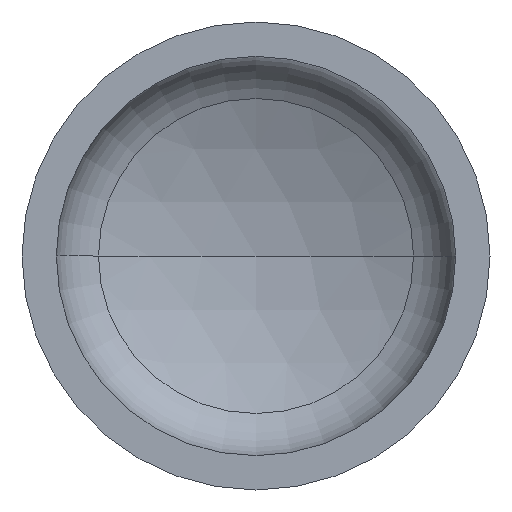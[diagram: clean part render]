
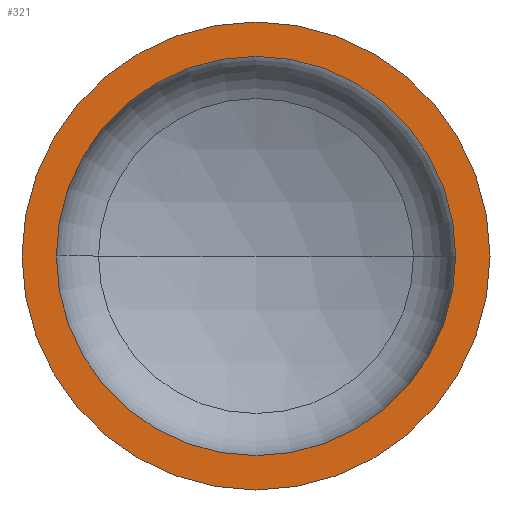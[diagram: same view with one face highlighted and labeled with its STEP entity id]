
A CAD part, front view. The second image highlights one B-rep face of the part: STEP entity #321.
In plain terms, the highlighted planar face has unit normal (0, -1, 0).
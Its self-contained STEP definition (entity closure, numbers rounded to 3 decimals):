
#19 = AXIS2_PLACEMENT_3D ( 'NONE', #212, #160, #258 ) ;
#20 = VERTEX_POINT ( 'NONE', #196 ) ;
#26 = AXIS2_PLACEMENT_3D ( 'NONE', #214, #378, #240 ) ;
#29 = VERTEX_POINT ( 'NONE', #202 ) ;
#32 = ORIENTED_EDGE ( 'NONE', *, *, #134, .T. ) ;
#37 = EDGE_LOOP ( 'NONE', ( #105, #32 ) ) ;
#46 = EDGE_LOOP ( 'NONE', ( #63, #69 ) ) ;
#50 = VERTEX_POINT ( 'NONE', #333 ) ;
#63 = ORIENTED_EDGE ( 'NONE', *, *, #137, .F. ) ;
#69 = ORIENTED_EDGE ( 'NONE', *, *, #335, .F. ) ;
#72 = VERTEX_POINT ( 'NONE', #352 ) ;
#105 = ORIENTED_EDGE ( 'NONE', *, *, #391, .T. ) ;
#109 = AXIS2_PLACEMENT_3D ( 'NONE', #233, #249, #246 ) ;
#112 = AXIS2_PLACEMENT_3D ( 'NONE', #159, #161, #125 ) ;
#125 = DIRECTION ( 'NONE',  ( 1., 0., 0. ) ) ;
#134 = EDGE_CURVE ( 'NONE', #72, #29, #263, .T. ) ;
#137 = EDGE_CURVE ( 'NONE', #20, #50, #195, .T. ) ;
#159 = CARTESIAN_POINT ( 'NONE',  ( 0., 0., 0. ) ) ;
#160 = DIRECTION ( 'NONE',  ( 0., 1., 0. ) ) ;
#161 = DIRECTION ( 'NONE',  ( 0., -1., 0. ) ) ;
#195 = CIRCLE ( 'NONE', #109, 384. ) ;
#196 = CARTESIAN_POINT ( 'NONE',  ( 384., 0., 0. ) ) ;
#202 = CARTESIAN_POINT ( 'NONE',  ( 450., 0., 0. ) ) ;
#211 = CIRCLE ( 'NONE', #245, 450. ) ;
#212 = CARTESIAN_POINT ( 'NONE',  ( -450., 0., 0. ) ) ;
#214 = CARTESIAN_POINT ( 'NONE',  ( 0., 0., 0. ) ) ;
#233 = CARTESIAN_POINT ( 'NONE',  ( 0., 0., 0. ) ) ;
#238 = PLANE ( 'NONE',  #19 ) ;
#240 = DIRECTION ( 'NONE',  ( 1., 0., 0. ) ) ;
#242 = CARTESIAN_POINT ( 'NONE',  ( 0., 0., 0. ) ) ;
#245 = AXIS2_PLACEMENT_3D ( 'NONE', #242, #406, #264 ) ;
#246 = DIRECTION ( 'NONE',  ( 1., 0., 0. ) ) ;
#249 = DIRECTION ( 'NONE',  ( 0., -1., 0. ) ) ;
#258 = DIRECTION ( 'NONE',  ( -1., 0., 0. ) ) ;
#263 = CIRCLE ( 'NONE', #112, 450. ) ;
#264 = DIRECTION ( 'NONE',  ( 1., 0., 0. ) ) ;
#321 = ADVANCED_FACE ( 'NONE', ( #367, #409 ), #238, .F. ) ;
#333 = CARTESIAN_POINT ( 'NONE',  ( -384., 0., 0. ) ) ;
#335 = EDGE_CURVE ( 'NONE', #50, #20, #349, .T. ) ;
#349 = CIRCLE ( 'NONE', #26, 384. ) ;
#352 = CARTESIAN_POINT ( 'NONE',  ( -450., 0., 0. ) ) ;
#367 = FACE_BOUND ( 'NONE', #46, .T. ) ;
#378 = DIRECTION ( 'NONE',  ( 0., -1., 0. ) ) ;
#391 = EDGE_CURVE ( 'NONE', #29, #72, #211, .T. ) ;
#406 = DIRECTION ( 'NONE',  ( 0., -1., 0. ) ) ;
#409 = FACE_OUTER_BOUND ( 'NONE', #37, .T. ) ;
